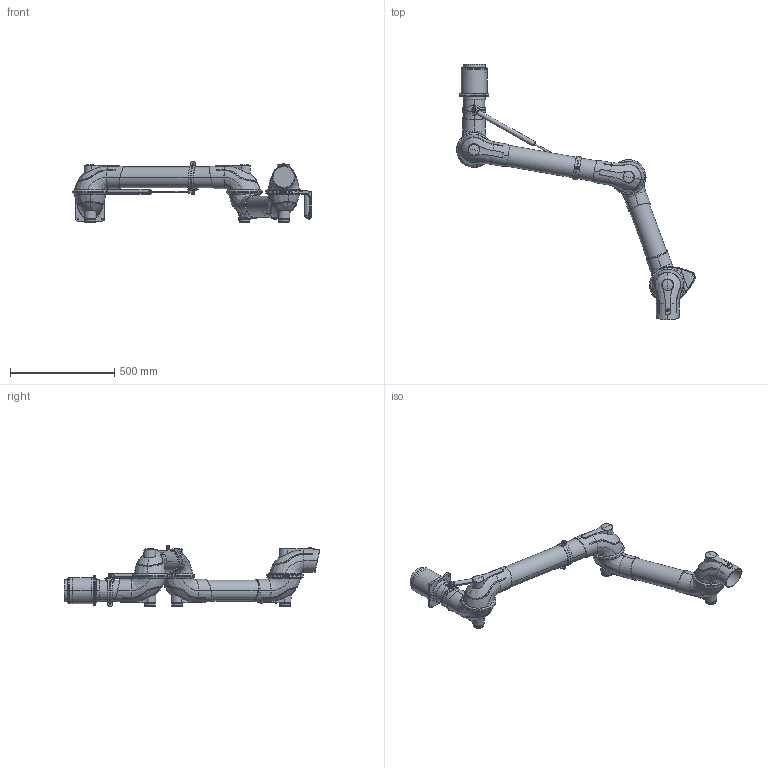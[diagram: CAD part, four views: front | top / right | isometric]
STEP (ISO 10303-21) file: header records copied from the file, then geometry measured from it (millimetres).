
FILE_DESCRIPTION((''),'2;1');
FILE_NAME('100331','2015-01-09T',('Tomas Bellgran'),(''),'PRO/ENGINEER BY PARAMETRIC TECHNOLOGY CORPORATION, 2013410','PRO/ENGINEER BY PARAMETRIC TECHNOLOGY CORPORATION, 2013410','');
FILE_SCHEMA(('AUTOMOTIVE_DESIGN { 1 0 10303 214 1 1 1 1 }'));
Length unit declared in the file: millimetre
Products named in the file (34): 100945; 100252; 100940; 100935; 100249; 100001; 100188; 100190; 9900420; 100328; 100263; 100260; 100279; 100275; 100002_AF13; 100291; 100001_AF8; 105-5481; 101156; 105-5810; 102135; 102086; 100337; GAS_SPRING_BANBACH_CYLB; GAS_SPRING_BANBACH-TUBE_AF9; 100343; 9903861; LOCK_NUT_M8_DIN985; LOCK_NUT_M8_DIN985_PL; 100107; GAS_SPRING_BANBACH_ROD; GAS_SPRING_BANBACH_RODHEAD; 100343-REF; 100331
Assembly tree (45 placements, depth 4):
  100331
    100328
      100945
      100252
      100940
      100935  x2
      100249
      100001
      100190
        100188
      9900420
    100260
      100001  x2
      100263
      100190
        100188
      9900420
    100275
      100279
      100001
    102086
      100002_AF13
      100291
      100001_AF8
      101156
        105-5481
      102135  x2
        105-5810
    100337  x2
    100343
      GAS_SPRING_BANBACH_CYLB
      GAS_SPRING_BANBACH-TUBE_AF9
    9903861  x2
    100107  x2
      LOCK_NUT_M8_DIN985
      LOCK_NUT_M8_DIN985_PL
    100343-REF
      GAS_SPRING_BANBACH_ROD
      GAS_SPRING_BANBACH_RODHEAD
    101156  x2
      105-5481
Bounding box: 1143.9 x 1223.55 x 294.37 mm (x, y, z)
Volume: 23015067.9 mm3; surface area: 1691758.1 mm2
Topology: 36 solids, 38 shells, 1229 faces, 2991 edges, 1856 vertices
Faces by surface type: bspline 374, plane 348, cylinder 246, cone 166, torus 48, sphere 33, extrusion 9, revolution 5
Entity records: 57834 total; most frequent: CARTESIAN_POINT 24129, ORIENTED_EDGE 3420, DIRECTION 2895, PRESENTATION_STYLE_ASSIGNMENT 2231, STYLED_ITEM 2231, EDGE_CURVE 1710, CURVE_STYLE 1697, PROPERTY_DEFINITION 1554
